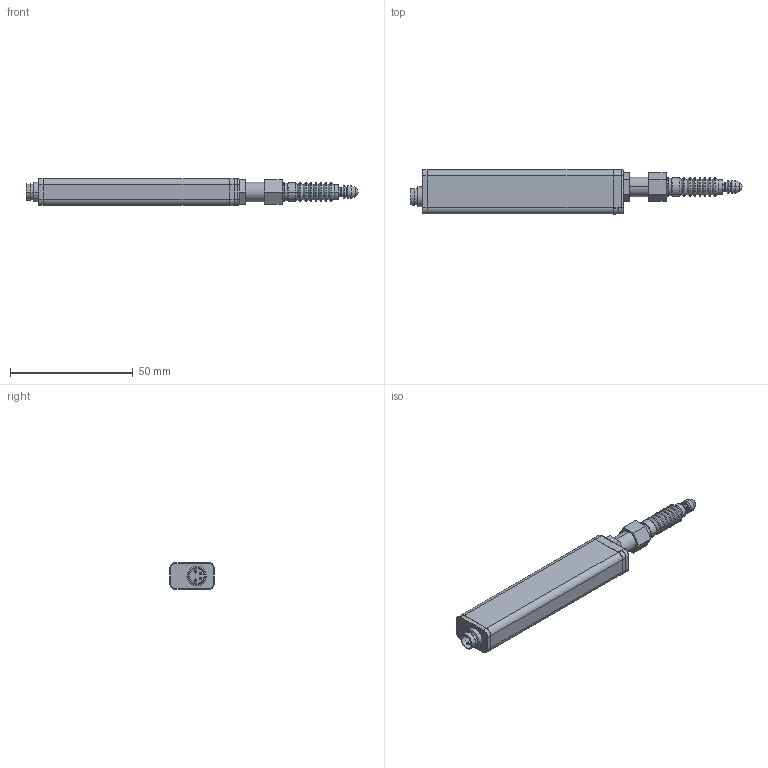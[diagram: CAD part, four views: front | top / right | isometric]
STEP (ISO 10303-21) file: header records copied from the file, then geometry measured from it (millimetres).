
FILE_DESCRIPTION (( 'STEP AP203' ), '1' );
FILE_NAME ('SA-S仩10_hp.STEP', '2020-01-24T09:23:45', ( '' ), ( '' ), 'SwSTEP 2.0', 'SolidWorks 2016', '' );
FILE_SCHEMA (( 'CONFIG_CONTROL_DESIGN' ));
Length unit declared in the file: millimetre
Products named in the file (6): ゴムベローズ_hp; スピンドル_hp; ナット10_hp; 本体_2; 端子; SA-S仩10_hp
Assembly tree (5 placements, depth 2):
  SA-S仩10_hp
    本体_2
    スピンドル_hp
    端子
    ゴムベローズ_hp
    ナット10_hp
Bounding box: 135.5 x 18.09 x 11.18 mm (x, y, z)
Volume: 18428.1 mm3; surface area: 7826.1 mm2
Topology: 5 solids, 5 shells, 289 faces, 630 edges, 365 vertices
Faces by surface type: cylinder 81, plane 81, cone 70, torus 54, bspline 2, sphere 1
Entity records: 8490 total; most frequent: DIRECTION 1518, CARTESIAN_POINT 1405, ORIENTED_EDGE 1236, AXIS2_PLACEMENT_3D 623, EDGE_CURVE 618, VERTEX_POINT 364, CIRCLE 328, EDGE_LOOP 318
